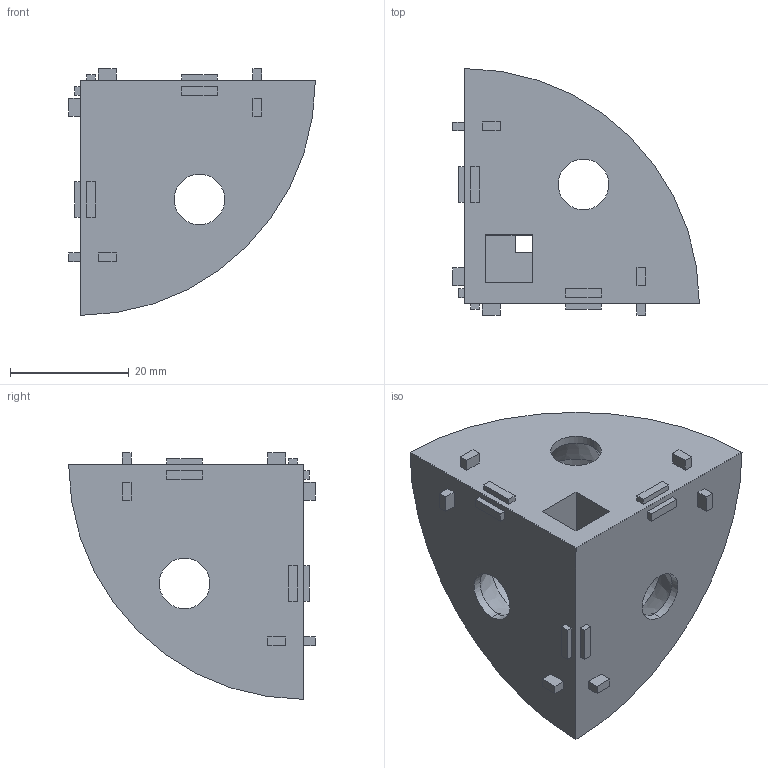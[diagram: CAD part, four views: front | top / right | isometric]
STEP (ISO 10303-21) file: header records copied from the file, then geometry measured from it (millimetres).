
FILE_DESCRIPTION (( 'STEP AP203' ), '1' );
FILE_NAME ('97-CE-3D4040-8.STEP', '2015-07-09T08:36:12', ( '' ), ( '' ), 'SwSTEP 2.0', 'SolidWorks 2013', '' );
FILE_SCHEMA (( 'CONFIG_CONTROL_DESIGN' ));
Length unit declared in the file: millimetre
Products named in the file (1): 97-CE-3D4040-8
Bounding box: 41.5 x 41.5 x 41.5 mm (x, y, z)
Volume: 19454.9 mm3; surface area: 7663 mm2
Topology: 1 solids, 1 shells, 93 faces, 223 edges, 146 vertices
Faces by surface type: plane 74, cylinder 12, cone 6, sphere 1
Entity records: 2757 total; most frequent: CARTESIAN_POINT 462, DIRECTION 446, ORIENTED_EDGE 444, EDGE_CURVE 222, LINE 186, VECTOR 186, VERTEX_POINT 146, AXIS2_PLACEMENT_3D 130
